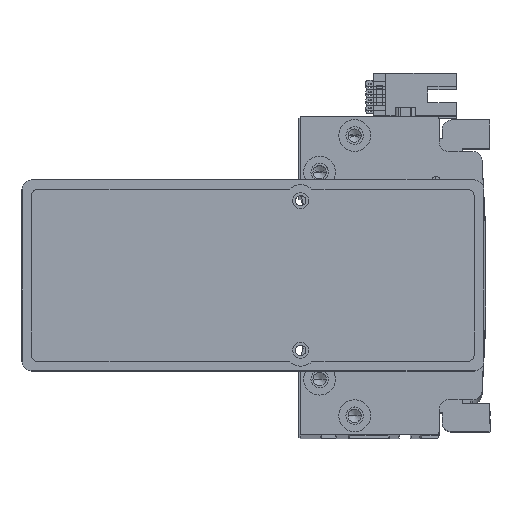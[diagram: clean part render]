
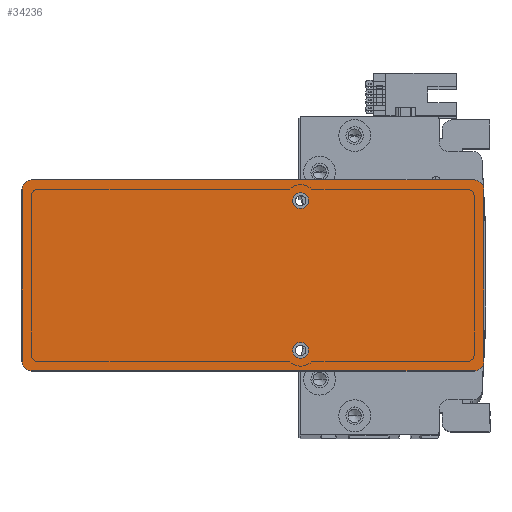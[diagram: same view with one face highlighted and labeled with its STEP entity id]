
A CAD part, top view. The second image highlights one B-rep face of the part: STEP entity #34236.
In plain terms, the highlighted planar face has unit normal (0, 0, 1) as drawn and (0, 0, -1) by its records, which use the part's own axes.
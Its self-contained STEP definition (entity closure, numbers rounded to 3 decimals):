
#107 = VECTOR ( 'NONE', #22733, 1000. ) ;
#792 = VERTEX_POINT ( 'NONE', #23587 ) ;
#1022 = VERTEX_POINT ( 'NONE', #14640 ) ;
#1126 = ORIENTED_EDGE ( 'NONE', *, *, #3459, .F. ) ;
#1221 = AXIS2_PLACEMENT_3D ( 'NONE', #33575, #13148, #36984 ) ;
#2054 = VERTEX_POINT ( 'NONE', #5563 ) ;
#2371 = CARTESIAN_POINT ( 'NONE',  ( -72.5, -27., 0. ) ) ;
#3284 = AXIS2_PLACEMENT_3D ( 'NONE', #11824, #35644, #15232 ) ;
#3459 = EDGE_CURVE ( 'NONE', #17360, #31944, #17951, .T. ) ;
#3914 = CARTESIAN_POINT ( 'NONE',  ( 72.5, -30., 0. ) ) ;
#4371 = ORIENTED_EDGE ( 'NONE', *, *, #31669, .T. ) ;
#4393 = CARTESIAN_POINT ( 'NONE',  ( 0., 0., 0. ) ) ;
#4399 = CARTESIAN_POINT ( 'NONE',  ( 15., -23.5, 0. ) ) ;
#4435 = VERTEX_POINT ( 'NONE', #14478 ) ;
#5525 = AXIS2_PLACEMENT_3D ( 'NONE', #12532, #36349, #15975 ) ;
#5563 = CARTESIAN_POINT ( 'NONE',  ( 12.5, -23.5, 0. ) ) ;
#6410 = CARTESIAN_POINT ( 'NONE',  ( 12.5, 23.5, 0. ) ) ;
#7203 = CARTESIAN_POINT ( 'NONE',  ( 69.5, 27., 0. ) ) ;
#7879 = DIRECTION ( 'NONE',  ( 1., 0., 0. ) ) ;
#7885 = DIRECTION ( 'NONE',  ( -1., 0., 0. ) ) ;
#8174 = ORIENTED_EDGE ( 'NONE', *, *, #16217, .T. ) ;
#8878 = AXIS2_PLACEMENT_3D ( 'NONE', #31579, #11205, #35012 ) ;
#8960 = VECTOR ( 'NONE', #33843, 1000. ) ;
#9102 = CARTESIAN_POINT ( 'NONE',  ( 72.5, -30., 0. ) ) ;
#9209 = LINE ( 'NONE', #9102, #107 ) ;
#9216 = CIRCLE ( 'NONE', #18985, 2.5 ) ;
#9564 = EDGE_LOOP ( 'NONE', ( #22024, #23879 ) ) ;
#10301 = CARTESIAN_POINT ( 'NONE',  ( -69.5, 30., 0. ) ) ;
#10572 = CIRCLE ( 'NONE', #28395, 2.5 ) ;
#10585 = DIRECTION ( 'NONE',  ( 1., 0., 0. ) ) ;
#11205 = DIRECTION ( 'NONE',  ( 0., 0., -1. ) ) ;
#11824 = CARTESIAN_POINT ( 'NONE',  ( 15., 23.5, 0. ) ) ;
#12532 = CARTESIAN_POINT ( 'NONE',  ( 69.5, -27., 0. ) ) ;
#12734 = EDGE_CURVE ( 'NONE', #792, #24470, #43601, .T. ) ;
#13109 = CARTESIAN_POINT ( 'NONE',  ( 69.5, -30., 0. ) ) ;
#13148 = DIRECTION ( 'NONE',  ( 0., 0., -1. ) ) ;
#14294 = EDGE_CURVE ( 'NONE', #4435, #16751, #20392, .T. ) ;
#14328 = VECTOR ( 'NONE', #24305, 1000. ) ;
#14358 = FACE_BOUND ( 'NONE', #9564, .T. ) ;
#14478 = CARTESIAN_POINT ( 'NONE',  ( 69.5, 30., 0. ) ) ;
#14640 = CARTESIAN_POINT ( 'NONE',  ( 72.5, -27., 0. ) ) ;
#15232 = DIRECTION ( 'NONE',  ( -1., 0., 0. ) ) ;
#15975 = DIRECTION ( 'NONE',  ( 1., 0., 0. ) ) ;
#16217 = EDGE_CURVE ( 'NONE', #1022, #24470, #41978, .T. ) ;
#16364 = ORIENTED_EDGE ( 'NONE', *, *, #17134, .F. ) ;
#16580 = VERTEX_POINT ( 'NONE', #6410 ) ;
#16751 = VERTEX_POINT ( 'NONE', #34373 ) ;
#16985 = FACE_OUTER_BOUND ( 'NONE', #19599, .T. ) ;
#17134 = EDGE_CURVE ( 'NONE', #4435, #40565, #24192, .T. ) ;
#17167 = CARTESIAN_POINT ( 'NONE',  ( 15., -23.5, 0. ) ) ;
#17360 = VERTEX_POINT ( 'NONE', #25087 ) ;
#17731 = ORIENTED_EDGE ( 'NONE', *, *, #14294, .T. ) ;
#17951 = LINE ( 'NONE', #43917, #8960 ) ;
#18143 = CARTESIAN_POINT ( 'NONE',  ( -69.5, 27., 0. ) ) ;
#18985 = AXIS2_PLACEMENT_3D ( 'NONE', #17167, #40980, #20570 ) ;
#19599 = EDGE_LOOP ( 'NONE', ( #22707, #8174, #32496, #42553, #1126, #4371, #16364, #17731 ) ) ;
#20392 = CIRCLE ( 'NONE', #34782, 3. ) ;
#20570 = DIRECTION ( 'NONE',  ( -1., 0., 0. ) ) ;
#21560 = DIRECTION ( 'NONE',  ( 1., 0., 0. ) ) ;
#21605 = ORIENTED_EDGE ( 'NONE', *, *, #41636, .F. ) ;
#22024 = ORIENTED_EDGE ( 'NONE', *, *, #36156, .F. ) ;
#22707 = ORIENTED_EDGE ( 'NONE', *, *, #43973, .F. ) ;
#22733 = DIRECTION ( 'NONE',  ( 0., 1., 0. ) ) ;
#23138 = CARTESIAN_POINT ( 'NONE',  ( 72.5, 30., 0. ) ) ;
#23587 = CARTESIAN_POINT ( 'NONE',  ( -69.5, -30., 0. ) ) ;
#23601 = CIRCLE ( 'NONE', #1221, 2.5 ) ;
#23879 = ORIENTED_EDGE ( 'NONE', *, *, #38062, .F. ) ;
#24192 = LINE ( 'NONE', #23138, #32189 ) ;
#24305 = DIRECTION ( 'NONE',  ( 1., 0., 0. ) ) ;
#24470 = VERTEX_POINT ( 'NONE', #13109 ) ;
#24574 = CARTESIAN_POINT ( 'NONE',  ( 17.5, -23.5, 0. ) ) ;
#24666 = PLANE ( 'NONE',  #32800 ) ;
#25087 = CARTESIAN_POINT ( 'NONE',  ( -72.5, 27., 0. ) ) ;
#26063 = FACE_BOUND ( 'NONE', #31561, .T. ) ;
#26084 = CIRCLE ( 'NONE', #3284, 2.5 ) ;
#28116 = ORIENTED_EDGE ( 'NONE', *, *, #31078, .F. ) ;
#28187 = DIRECTION ( 'NONE',  ( 0., 0., 1. ) ) ;
#28197 = DIRECTION ( 'NONE',  ( 0., 0., -1. ) ) ;
#28395 = AXIS2_PLACEMENT_3D ( 'NONE', #4399, #28197, #7885 ) ;
#28408 = CARTESIAN_POINT ( 'NONE',  ( 17.5, 23.5, 0. ) ) ;
#30962 = DIRECTION ( 'NONE',  ( 0., 0., -1. ) ) ;
#31078 = EDGE_CURVE ( 'NONE', #43728, #2054, #10572, .T. ) ;
#31561 = EDGE_LOOP ( 'NONE', ( #21605, #28116 ) ) ;
#31579 = CARTESIAN_POINT ( 'NONE',  ( -69.5, -27., 0. ) ) ;
#31669 = EDGE_CURVE ( 'NONE', #17360, #40565, #40275, .T. ) ;
#31944 = VERTEX_POINT ( 'NONE', #2371 ) ;
#32189 = VECTOR ( 'NONE', #33465, 1000. ) ;
#32496 = ORIENTED_EDGE ( 'NONE', *, *, #12734, .F. ) ;
#32800 = AXIS2_PLACEMENT_3D ( 'NONE', #4393, #28187, #7879 ) ;
#33465 = DIRECTION ( 'NONE',  ( -1., 0., 0. ) ) ;
#33575 = CARTESIAN_POINT ( 'NONE',  ( 15., 23.5, 0. ) ) ;
#33843 = DIRECTION ( 'NONE',  ( 0., -1., 0. ) ) ;
#34236 = ADVANCED_FACE ( 'NONE', ( #14358, #26063, #16985 ), #24666, .F. ) ;
#34373 = CARTESIAN_POINT ( 'NONE',  ( 72.5, 27., 0. ) ) ;
#34741 = EDGE_CURVE ( 'NONE', #792, #31944, #41389, .T. ) ;
#34782 = AXIS2_PLACEMENT_3D ( 'NONE', #7203, #30962, #10585 ) ;
#35012 = DIRECTION ( 'NONE',  ( 1., 0., 0. ) ) ;
#35644 = DIRECTION ( 'NONE',  ( 0., 0., -1. ) ) ;
#35802 = AXIS2_PLACEMENT_3D ( 'NONE', #18143, #41995, #21560 ) ;
#36156 = EDGE_CURVE ( 'NONE', #16580, #43783, #23601, .T. ) ;
#36349 = DIRECTION ( 'NONE',  ( 0., 0., -1. ) ) ;
#36984 = DIRECTION ( 'NONE',  ( -1., 0., 0. ) ) ;
#38062 = EDGE_CURVE ( 'NONE', #43783, #16580, #26084, .T. ) ;
#40275 = CIRCLE ( 'NONE', #35802, 3. ) ;
#40565 = VERTEX_POINT ( 'NONE', #10301 ) ;
#40980 = DIRECTION ( 'NONE',  ( 0., 0., -1. ) ) ;
#41389 = CIRCLE ( 'NONE', #8878, 3. ) ;
#41636 = EDGE_CURVE ( 'NONE', #2054, #43728, #9216, .T. ) ;
#41978 = CIRCLE ( 'NONE', #5525, 3. ) ;
#41995 = DIRECTION ( 'NONE',  ( 0., 0., -1. ) ) ;
#42553 = ORIENTED_EDGE ( 'NONE', *, *, #34741, .T. ) ;
#43601 = LINE ( 'NONE', #3914, #14328 ) ;
#43728 = VERTEX_POINT ( 'NONE', #24574 ) ;
#43783 = VERTEX_POINT ( 'NONE', #28408 ) ;
#43917 = CARTESIAN_POINT ( 'NONE',  ( -72.5, -30., 0. ) ) ;
#43973 = EDGE_CURVE ( 'NONE', #1022, #16751, #9209, .T. ) ;
